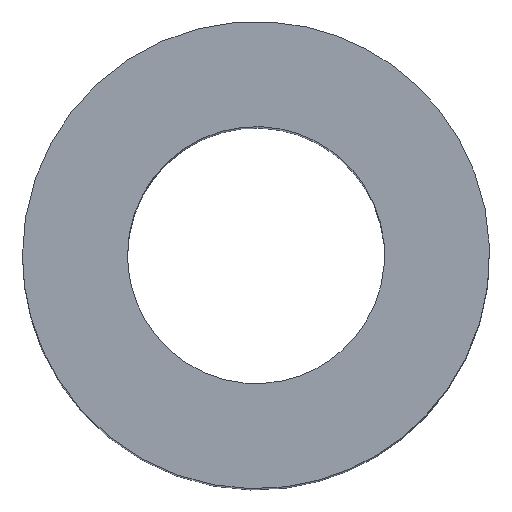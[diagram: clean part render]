
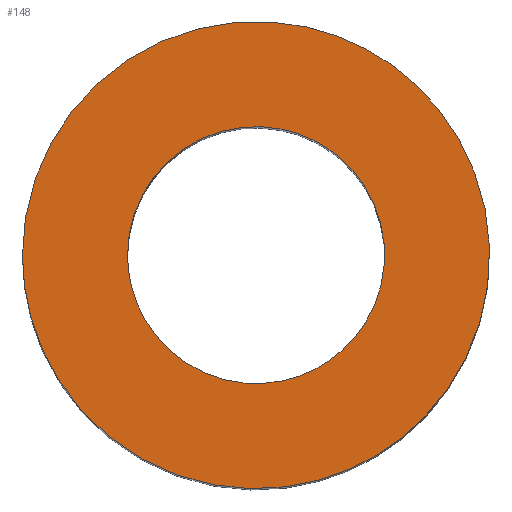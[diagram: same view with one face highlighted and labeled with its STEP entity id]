
A CAD part, top view. The second image highlights one B-rep face of the part: STEP entity #148.
In plain terms, the highlighted free-form (B-spline) face has degree [1, 1] with [2, 2] control points.
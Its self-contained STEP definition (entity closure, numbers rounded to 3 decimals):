
#115 = EDGE_CURVE('',#116,#116,#118,.T.);
#116 = VERTEX_POINT('',#117);
#117 = CARTESIAN_POINT('',(-3.,0.,10.));
#118 = ( BOUNDED_CURVE() B_SPLINE_CURVE(2,(#119,#120,#121,#122,#123,#124
,#125),.UNSPECIFIED.,.T.,.F.) B_SPLINE_CURVE_WITH_KNOTS((1,2,2,2,2,1),(
    -2.094,0.,2.094,4.189,6.283,
8.378),.UNSPECIFIED.) CURVE() GEOMETRIC_REPRESENTATION_ITEM() 
RATIONAL_B_SPLINE_CURVE((1.,0.5,1.,0.5,1.,0.5,1.)) REPRESENTATION_ITEM(
  '') );
#119 = CARTESIAN_POINT('',(-3.,0.,10.));
#120 = CARTESIAN_POINT('',(-3.,5.196,10.));
#121 = CARTESIAN_POINT('',(1.5,2.598,10.));
#122 = CARTESIAN_POINT('',(6.,0.,10.));
#123 = CARTESIAN_POINT('',(1.5,-2.598,10.));
#124 = CARTESIAN_POINT('',(-3.,-5.196,10.));
#125 = CARTESIAN_POINT('',(-3.,0.,10.));
#148 = ADVANCED_FACE('',(#149,#163),#166,.T.);
#149 = FACE_BOUND('',#150,.T.);
#150 = EDGE_LOOP('',(#151));
#151 = ORIENTED_EDGE('',*,*,#152,.T.);
#152 = EDGE_CURVE('',#153,#153,#155,.T.);
#153 = VERTEX_POINT('',#154);
#154 = CARTESIAN_POINT('',(-1.65,0.,10.));
#155 = ( BOUNDED_CURVE() B_SPLINE_CURVE(2,(#156,#157,#158,#159,#160,#161
,#162),.UNSPECIFIED.,.T.,.F.) B_SPLINE_CURVE_WITH_KNOTS((1,2,2,2,2,1),(
    -2.094,0.,2.094,4.189,6.283,
8.378),.UNSPECIFIED.) CURVE() GEOMETRIC_REPRESENTATION_ITEM() 
RATIONAL_B_SPLINE_CURVE((1.,0.5,1.,0.5,1.,0.5,1.)) REPRESENTATION_ITEM(
  '') );
#156 = CARTESIAN_POINT('',(-1.65,0.,10.));
#157 = CARTESIAN_POINT('',(-1.65,2.858,10.));
#158 = CARTESIAN_POINT('',(0.825,1.429,10.));
#159 = CARTESIAN_POINT('',(3.3,0.,10.));
#160 = CARTESIAN_POINT('',(0.825,-1.429,10.));
#161 = CARTESIAN_POINT('',(-1.65,-2.858,10.));
#162 = CARTESIAN_POINT('',(-1.65,0.,10.));
#163 = FACE_BOUND('',#164,.T.);
#164 = EDGE_LOOP('',(#165));
#165 = ORIENTED_EDGE('',*,*,#115,.F.);
#166 = B_SPLINE_SURFACE_WITH_KNOTS('',1,1,(
    (#167,#168)
    ,(#169,#170
  )),.UNSPECIFIED.,.F.,.F.,.F.,(2,2),(2,2),(0.,6.),(-3.,3.),
  .PIECEWISE_BEZIER_KNOTS.);
#167 = CARTESIAN_POINT('',(-3.,-3.,10.));
#168 = CARTESIAN_POINT('',(-3.,3.,10.));
#169 = CARTESIAN_POINT('',(3.,-3.,10.));
#170 = CARTESIAN_POINT('',(3.,3.,10.));
